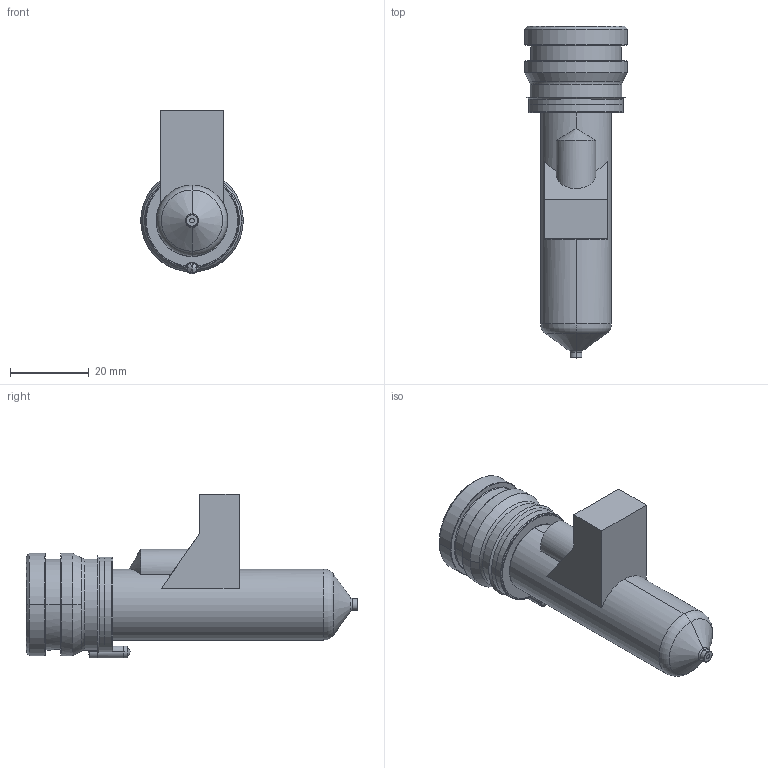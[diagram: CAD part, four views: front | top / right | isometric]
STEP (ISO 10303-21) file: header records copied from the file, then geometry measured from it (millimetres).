
FILE_DESCRIPTION((''),'2;1');
FILE_NAME('MPN-08-24-VP3-066-M','2026-02-05T13:32:21',('UPTIO'),('Thermoplay S.p.A.'),'CREO PARAMETRIC BY PTC INC, 2023494','CREO PARAMETRIC BY PTC INC, 2023494','');
FILE_SCHEMA(('CONFIG_CONTROL_DESIGN','SHAPE_APPEARANCE_LAYERS_GROUPS'));
Length unit declared in the file: millimetre
Products named in the file (1): MPN-08-24-VP3-066-M
Bounding box: 26 x 84.1 x 41.5 mm (x, y, z)
Volume: 17724.6 mm3; surface area: 22746.1 mm2
Topology: 2 solids, 3 shells, 571 faces, 1494 edges, 922 vertices
Faces by surface type: cylinder 178, plane 143, bspline 103, torus 68, cone 66, sphere 7, extrusion 6
Entity records: 30778 total; most frequent: CARTESIAN_POINT 14268, ORIENTED_EDGE 2970, DIRECTION 2631, EDGE_CURVE 1485, AXIS2_PLACEMENT_3D 1029, VERTEX_POINT 922, EDGE_LOOP 601, VECTOR 573
